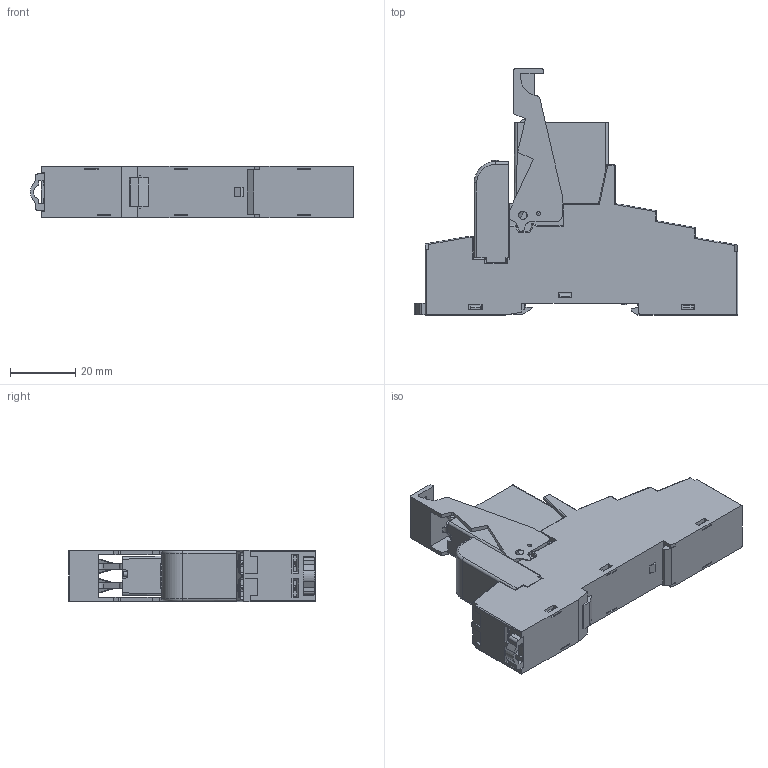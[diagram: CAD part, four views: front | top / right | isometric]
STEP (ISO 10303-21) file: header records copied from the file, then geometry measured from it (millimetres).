
FILE_DESCRIPTION(/* description */ ('Unknown'),/* implementation_level */ '2;1');
FILE_NAME(/* name */ '48P3',/* time_stamp */ '2016-02-15T17:40:38+01:00',/* author */ ('Unknown'),/* organization */ ('Unknown'),/* preprocessor_version */ 'ST-DEVELOPER v16',/* originating_system */ 'DEX',/* authorisation */ $);
FILE_SCHEMA (('AUTOMOTIVE_DESIGN {1 0 10303 214 3 1 1}'));
Products named in the file (6): 48P3; 95P3; Assieme 95.03; Complessivo 42_31; 095913; 9902 modulino con led - CS
Assembly tree (5 placements, depth 3):
  48P3
    95P3
      Assieme 95.03
    Complessivo 42_31
    095913
    9902 modulino con led - CS
Bounding box: 98.9 x 75.26 x 15.8 mm (x, y, z)
Volume: 36295 mm3; surface area: 28297.6 mm2
Topology: 3 solids, 20 shells, 2118 faces, 6019 edges, 3949 vertices
Faces by surface type: plane 1595, cylinder 386, torus 67, cone 52, sphere 16, bspline 2
Full cylindrical faces by diameter (mm): 0.6 x1, 1.2 x4, 1.3 x2, 1.5 x1, 2.1 x5, 2.5 x2, 2.6 x2
Entity records: 81343 total; most frequent: CARTESIAN_POINT 13485, ORIENTED_EDGE 11660, DIRECTION 11052, EDGE_CURVE 5979, LINE 4950, VECTOR 4950, VERTEX_POINT 3939, AXIS2_PLACEMENT_3D 3051
